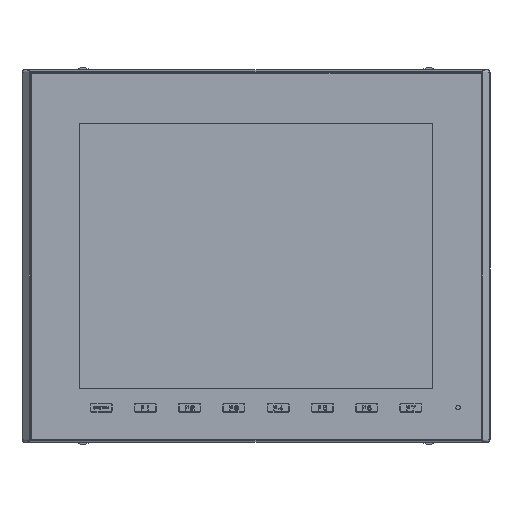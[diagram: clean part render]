
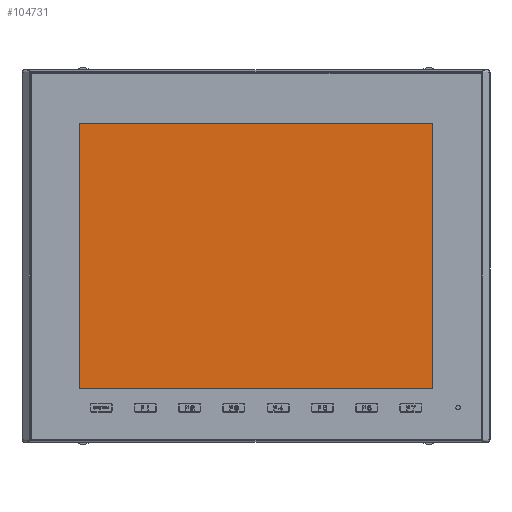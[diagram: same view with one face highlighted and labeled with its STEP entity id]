
A CAD part, top view. The second image highlights one B-rep face of the part: STEP entity #104731.
In plain terms, the highlighted planar face has unit normal (0, 0, 1).
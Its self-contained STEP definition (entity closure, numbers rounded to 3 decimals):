
#35424=DIRECTION('',(0.,1.,0.));
#35425=VECTOR('',#35424,186.);
#35426=CARTESIAN_POINT('',(-123.75,-93.,6.75));
#35427=LINE('',#35426,#35425);
#35428=DIRECTION('',(1.,0.,0.));
#35429=VECTOR('',#35428,247.5);
#35430=CARTESIAN_POINT('',(-123.75,93.,6.75));
#35431=LINE('',#35430,#35429);
#35432=DIRECTION('',(0.,-1.,0.));
#35433=VECTOR('',#35432,186.);
#35434=CARTESIAN_POINT('',(123.75,93.,6.75));
#35435=LINE('',#35434,#35433);
#35436=DIRECTION('',(-1.,0.,0.));
#35437=VECTOR('',#35436,247.5);
#35438=CARTESIAN_POINT('',(123.75,-93.,6.75));
#35439=LINE('',#35438,#35437);
#60034=CARTESIAN_POINT('',(-123.75,-93.,6.75));
#60035=CARTESIAN_POINT('',(-123.75,93.,6.75));
#60036=VERTEX_POINT('',#60034);
#60037=VERTEX_POINT('',#60035);
#60038=CARTESIAN_POINT('',(123.75,-93.,6.75));
#60039=VERTEX_POINT('',#60038);
#60040=CARTESIAN_POINT('',(123.75,93.,6.75));
#60041=VERTEX_POINT('',#60040);
#104720=CARTESIAN_POINT('',(0.,0.,6.75));
#104721=DIRECTION('',(0.,0.,1.));
#104722=DIRECTION('',(1.,0.,0.));
#104723=AXIS2_PLACEMENT_3D('',#104720,#104721,#104722);
#104724=PLANE('',#104723);
#104725=ORIENTED_EDGE('',*,*,#104672,.T.);
#104726=ORIENTED_EDGE('',*,*,#104687,.T.);
#104727=ORIENTED_EDGE('',*,*,#104701,.T.);
#104728=ORIENTED_EDGE('',*,*,#104714,.T.);
#104729=EDGE_LOOP('',(#104725,#104726,#104727,#104728));
#104730=FACE_OUTER_BOUND('',#104729,.F.);
#104731=ADVANCED_FACE('',(#104730),#104724,.T.);
#104672=EDGE_CURVE('',#60036,#60037,#35427,.T.);
#104687=EDGE_CURVE('',#60037,#60041,#35431,.T.);
#104701=EDGE_CURVE('',#60041,#60039,#35435,.T.);
#104714=EDGE_CURVE('',#60039,#60036,#35439,.T.);
